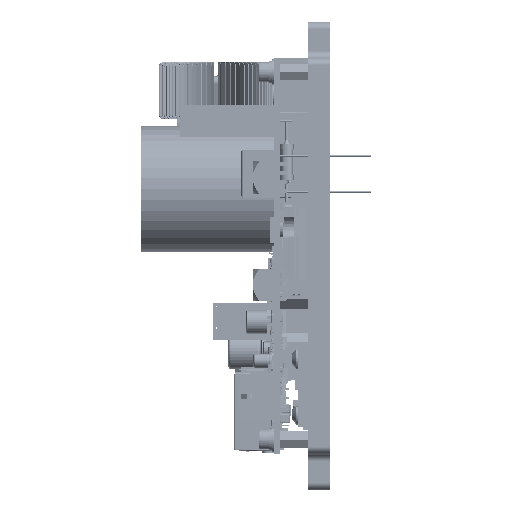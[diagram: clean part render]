
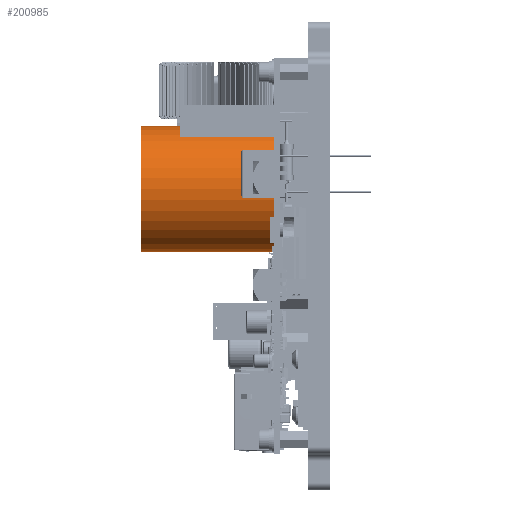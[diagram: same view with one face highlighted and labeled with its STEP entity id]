
A CAD part, left-side view. The second image highlights one B-rep face of the part: STEP entity #200985.
In plain terms, the highlighted cylindrical face has radius 17.5 mm (diameter 35 mm), a full revolution.
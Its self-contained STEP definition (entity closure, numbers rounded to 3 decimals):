
#14221 = CARTESIAN_POINT ( 'NONE',  ( 22.5, 0., 0. ) ) ;
#20090 = DIRECTION ( 'NONE',  ( 1., 0., 0. ) ) ;
#23557 = EDGE_CURVE ( 'NONE', #119020, #119020, #213181, .T. ) ;
#25370 = ORIENTED_EDGE ( 'NONE', *, *, #199696, .F. ) ;
#42274 = AXIS2_PLACEMENT_3D ( 'NONE', #192473, #375190, #75626 ) ;
#56598 = DIRECTION ( 'NONE',  ( 0., 0., 1. ) ) ;
#69312 = DIRECTION ( 'NONE',  ( 1., 0., 0. ) ) ;
#75626 = DIRECTION ( 'NONE',  ( 1., 0., 0. ) ) ;
#80171 = ORIENTED_EDGE ( 'NONE', *, *, #23557, .T. ) ;
#104373 = AXIS2_PLACEMENT_3D ( 'NONE', #256790, #263951, #69312 ) ;
#119020 = VERTEX_POINT ( 'NONE', #14221 ) ;
#135517 = CIRCLE ( 'NONE', #384518, 17.5 ) ;
#168020 = VERTEX_POINT ( 'NONE', #284755 ) ;
#192473 = CARTESIAN_POINT ( 'NONE',  ( 5., 0., 0. ) ) ;
#194878 = FACE_OUTER_BOUND ( 'NONE', #269924, .T. ) ;
#199696 = EDGE_CURVE ( 'NONE', #168020, #168020, #135517, .T. ) ;
#200985 = ADVANCED_FACE ( 'NONE', ( #194878, #343491 ), #382416, .T. ) ;
#213181 = CIRCLE ( 'NONE', #104373, 17.5 ) ;
#241686 = CARTESIAN_POINT ( 'NONE',  ( 5., 0., 37. ) ) ;
#256790 = CARTESIAN_POINT ( 'NONE',  ( 5., 0., 0. ) ) ;
#263951 = DIRECTION ( 'NONE',  ( 0., 0., 1. ) ) ;
#269924 = EDGE_LOOP ( 'NONE', ( #25370 ) ) ;
#280884 = EDGE_LOOP ( 'NONE', ( #80171 ) ) ;
#284755 = CARTESIAN_POINT ( 'NONE',  ( 22.5, 0., 37. ) ) ;
#343491 = FACE_OUTER_BOUND ( 'NONE', #280884, .T. ) ;
#375190 = DIRECTION ( 'NONE',  ( 0., 0., -1. ) ) ;
#382416 = CYLINDRICAL_SURFACE ( 'NONE', #42274, 17.5 ) ;
#384518 = AXIS2_PLACEMENT_3D ( 'NONE', #241686, #56598, #20090 ) ;
